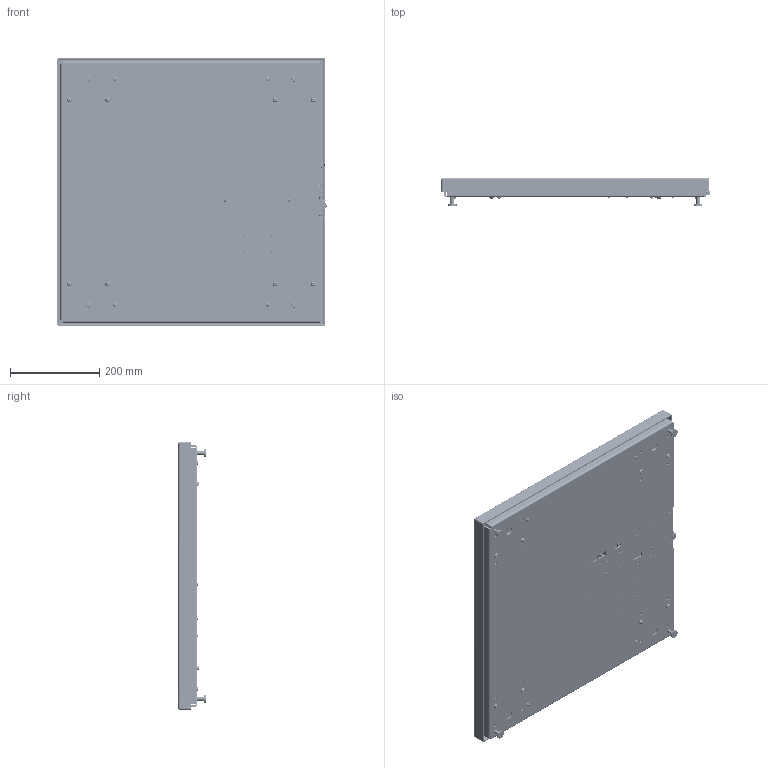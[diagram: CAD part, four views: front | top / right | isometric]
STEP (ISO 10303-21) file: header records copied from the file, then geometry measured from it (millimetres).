
FILE_DESCRIPTION (( 'STEP AP214' ), '1' );
FILE_NAME ('E-SCALE-6500PB-2424-330.STEP', '2019-08-27T23:16:55', ( '' ), ( '' ), 'SwSTEP 2.0', 'SolidWorks 2017', '' );
FILE_SCHEMA (( 'AUTOMOTIVE_DESIGN' ));
Length unit declared in the file: millimetre
Products named in the file (71): 6032-0086-06-0; 2813-0155-0_93475A195; 0075172_A3, A4 & A5; 0074757_Modified By Hardy; 0075295; Phoenix 1778609; 2140-0128-0; pan cross head_ai_CR-PHMS 0.164-32x0.3125x0.3125-N-A2.70; 0075233; 0075232_80-001903; 0074918; pan cross head_ai_CR-PHMS 0.112-40x0.3125x0.3125-N; 2813-0084; curved spring lock washer_din_Spring washer DIN 128 - A2; Tyco_c-1-6605752-1-d-3d; 6500 EIP Complete Board With Connectors; 0530-0856-01-0; 0075173_B5; Phoenix_1803316; 0075175_84-227975; 2815-0179-0_91780A166; E-SCALE-6500PB-2424-330; 0509-0543-01-0; 0075198; 2814-0098-0_90633A007; 0078239; 0075231_PBSH-150kg 600 X 600; 0075174_5; Wire Jumper_0.15 Inch Pitch; 0514-0241-01-0_Rev A; socket button head cap screw_am_B18.3.4M - 6 x 1.0 x 20 SBHCS --N-A2.70; pan head cross recess screw_din_DIN EN ISO 7045 - M2.5 x 12 - Z - 12N; 0075294; Phoenix_1803345; Phoenix_1803617; socket head cap screw_am_B18.3.1M - 6 x 1.0 x 20 Hex SHCS -- 20NHX-A2.70; flat washer type a selected narrow_ai_Selected Narrow FW 0.125; 2143-T013; 2815-0178-0_92710A203; 0075309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
Assembly tree (129 placements, depth 4):
  E-SCALE-6500PB-2424-330
    0074904
      0074915_Modified By Hardy_Default<As Machined>
      0074918  x4
      0078239
    0075309
    0075175_84-227975  x4
      0075172_A3, A4 & A5
      0075174_5
      0075173_B5
    hex jam nut_ai_HJNUT 0.2500-20-D-N  x4
    0074757_Modified By Hardy
    0075198  x4
    0075200_93505A451  x4
    0075290
      0075233
      0018546  x4
      0075287_C2 CHIP
      0075295  x4
        0075294
        0075293
    pan cross head_ai_CR-PHMS 0.164-32x0.3125x0.3125-N-A2.70  x4
    0074880  x4
      0074872
      0074879
      0067075
      socket head cap screw_am_B18.3.1M - 6 x 1.0 x 20 Hex SHCS -- 20NHX-A2.70
    0075231_PBSH-150kg 600 X 600  x4
      0075230_91780A198
      0075232_80-001903
      flat head screw_ai_CR-FHMS 0.164-32x0.875x0.875-N-A2.70
      pan cross head_ai_CR-PHMS 0.164-32x0.3125x0.3125-N-A2.70
    socket button head cap screw_am_B18.3.4M - 6 x 1.0 x 20 SBHCS --N-A2.70  x8
    2814-0098-0_90633A007  x2
    2817-0272-0_90402A146
    2143-T004  x2
    2143-T013
    flat washer type a selected narrow_ai_Selected Narrow FW 0.125  x3
    2814-T011_90631A005
    6500 EIP Complete Board With Connectors
      0534-0564-01-0
      Phoenix 1778609
      Phoenix_1754452
      Chassis fastener Winchester Electronics A1591B  x2
      Phoenix_1803316
      Tyco_c-1-6605752-1-d-3d
      USB Connector Female
      Phoenix_1803345
      Phoenix_1754465
      Phoenix_1803617
      Phoenix_1803646
    2815-0179-0_91780A166  x2
    pan cross head_ai_CR-PHMS 0.112-40x0.3125x0.3125-N  x4
    0514-0241-01-0_Rev A
    0509-0542-01-0
    pan cross head_am_B18.6.7M - M2 x 0.4 x 8 Type I Cross Recessed PHMS --8N  x2
    2813-0155-0_93475A195  x2
    curved spring lock washer_din_Spring washer DIN 128 - A2  x2
    hex nut style 1_am_B18.2.4.1M - Hex nut, Style 1,  M2 x 0.4 --D-N  x2
    2140-0128-0
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Bounding box: 603.77 x 61.68 x 600 mm (x, y, z)
Volume: 2835434.2 mm3; surface area: 1931421.6 mm2
Topology: 687 solids, 687 shells, 20625 faces, 52987 edges, 34387 vertices
Faces by surface type: plane 10877, bspline 5160, cylinder 3278, cone 1052, torus 196, sphere 62
Entity records: 709325 total; most frequent: CARTESIAN_POINT 190517, ORIENTED_EDGE 88636, DIRECTION 61098, EDGE_CURVE 44318, VERTEX_POINT 29073, VECTOR 27884, LINE 27884, EDGE_LOOP 18433
